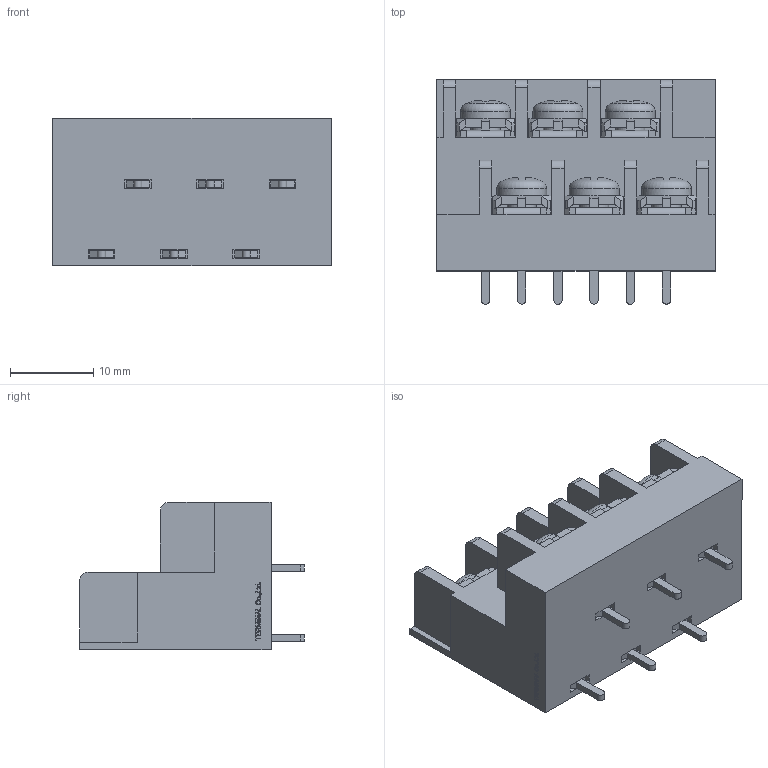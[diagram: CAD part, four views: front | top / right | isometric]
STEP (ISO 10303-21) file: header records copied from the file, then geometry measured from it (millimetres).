
FILE_DESCRIPTION(/* description */ ('Alibre Inc.'),/* implementation_level */ '2;1');
FILE_NAME(/* name */ 'export-134367ED-40CD-424C-89E6-867C2209796D',/* time_stamp */ '2021-02-08T16:58:13+09:00',/* author */ (''),/* organization */ (''),/* preprocessor_version */ 'ST-DEVELOPER v17',/* originating_system */ 'Alibre',/* authorisation */ '');
FILE_SCHEMA (('CONFIG_CONTROL_DESIGN'));
Length unit declared in the file: millimetre
Bounding box: 33.45 x 27 x 17.7 mm (x, y, z)
Volume: 8520.4 mm3; surface area: 5813.2 mm2
Topology: 1 solids, 23 shells, 1254 faces, 3162 edges, 2010 vertices
Faces by surface type: plane 894, bspline 226, cylinder 56, extrusion 24, cone 24, torus 18, sphere 12
Full cylindrical faces by diameter (mm): 3.5 x12, 4.5 x6, 5 x6, 6 x6
Entity records: 38829 total; most frequent: CARTESIAN_POINT 12140, ORIENTED_EDGE 6180, DIRECTION 3788, EDGE_CURVE 3090, VECTOR 2220, LINE 2208, VERTEX_POINT 1986, EDGE_LOOP 1378
